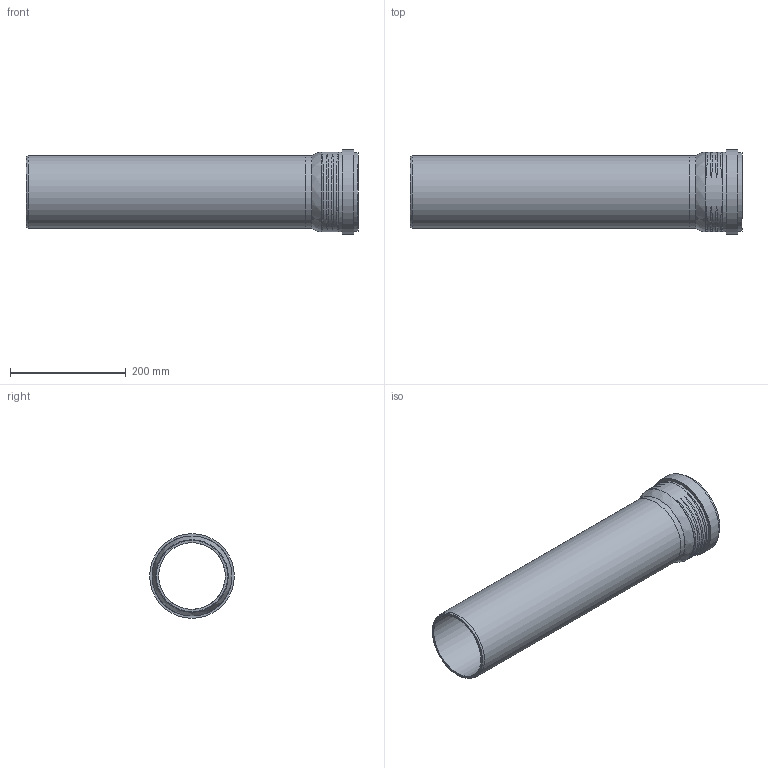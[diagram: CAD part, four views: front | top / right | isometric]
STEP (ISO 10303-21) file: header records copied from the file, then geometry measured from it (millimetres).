
FILE_DESCRIPTION(/* description */ (''),/* implementation_level */ '2;1');
FILE_NAME(/* name */ 'H:\Geberit-Teile\Export\PP_Rohr\stp\393602.stp',/* time_stamp */ '2017-02-13T16:09:24+01:00',/* author */ ('seihe2'),/* organization */ (''),/* preprocessor_version */ 'ST-DEVELOPER v15.2',/* originating_system */ 'Autodesk Inventor 2014',/* authorisation */ '');
FILE_SCHEMA (('AUTOMOTIVE_DESIGN { 1 0 10303 214 3 1 1 }'));
Length unit declared in the file: millimetre
Products named in the file (1): 393602
Bounding box: 573.9 x 146.35 x 146.35 mm (x, y, z)
Volume: 1113387.5 mm3; surface area: 466805.5 mm2
Topology: 2 solids, 2 shells, 38 faces, 81 edges, 56 vertices
Faces by surface type: torus 17, cylinder 10, plane 8, cone 2, bspline 1
Full cylindrical faces by diameter (mm): 115.2 x2, 125.2 x2, 126.2 x1, 129.2 x1, 135.2 x1, 137.75 x1, 138.2 x1, 146.35 x1
Entity records: 2345 total; most frequent: CARTESIAN_POINT 1566, DIRECTION 130, ORIENTED_EDGE 124, EDGE_LOOP 69, AXIS2_PLACEMENT_3D 65, EDGE_CURVE 62, VERTEX_POINT 55, STYLED_ITEM 40
